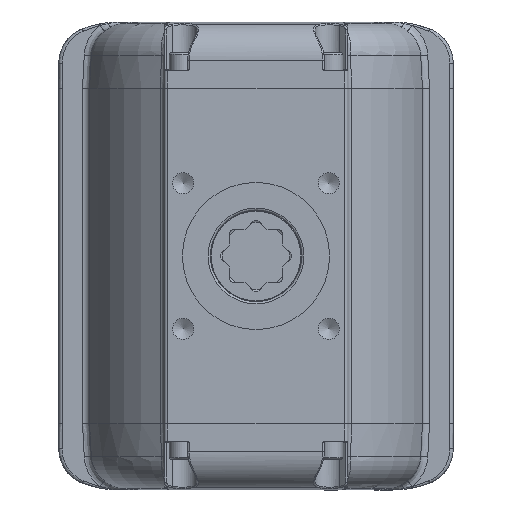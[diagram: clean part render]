
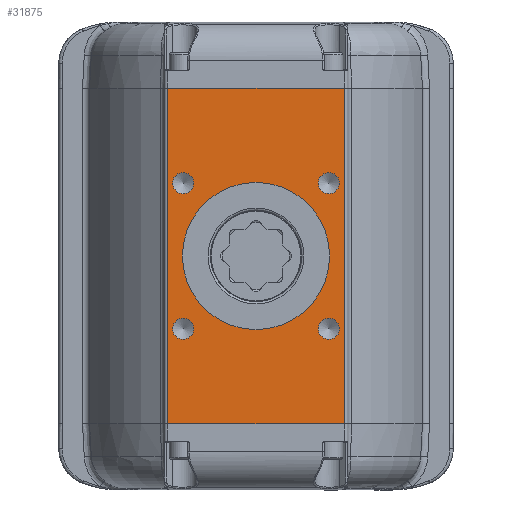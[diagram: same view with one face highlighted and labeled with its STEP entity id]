
A CAD part, front view. The second image highlights one B-rep face of the part: STEP entity #31875.
In plain terms, the highlighted planar face has unit normal (0, -1, 0).
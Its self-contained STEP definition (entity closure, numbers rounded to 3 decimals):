
#30025=CARTESIAN_POINT('',(60.,-136.,-114.));
#30026=VERTEX_POINT('',#30025);
#30034=CARTESIAN_POINT('',(-60.,-136.,-114.));
#30035=VERTEX_POINT('',#30034);
#30036=CARTESIAN_POINT('',(-60.,-136.,-114.));
#30037=DIRECTION('',(1.0,0.0,0.0));
#30038=VECTOR('',#30037,120.);
#30039=LINE('',#30036,#30038);
#30040=EDGE_CURVE('',#30035,#30026,#30039,.T.);
#31777=CARTESIAN_POINT('',(-60.,-136.,114.));
#31778=VERTEX_POINT('',#31777);
#31788=CARTESIAN_POINT('',(-60.,-136.,-114.));
#31789=DIRECTION('',(0.0,0.0,1.0));
#31790=VECTOR('',#31789,228.0);
#31791=LINE('',#31788,#31790);
#31792=EDGE_CURVE('',#30035,#31778,#31791,.T.);
#31797=CARTESIAN_POINT('',(62.5,-136.,0.));
#31798=DIRECTION('',(0.0,-1.0,0.0));
#31799=DIRECTION('',(0.0,0.0,-1.0));
#31800=AXIS2_PLACEMENT_3D('',#31797,#31798,#31799);
#31801=PLANE('',#31800);
#31802=CARTESIAN_POINT('',(60.,-136.,114.));
#31803=VERTEX_POINT('',#31802);
#31804=CARTESIAN_POINT('',(60.,-136.,114.));
#31805=DIRECTION('',(0.0,0.0,-1.0));
#31806=VECTOR('',#31805,228.0);
#31807=LINE('',#31804,#31806);
#31808=EDGE_CURVE('',#31803,#30026,#31807,.T.);
#31809=ORIENTED_EDGE('',*,*,#31808,.F.);
#31810=CARTESIAN_POINT('',(60.,-136.,114.));
#31811=DIRECTION('',(-1.0,0.0,0.0));
#31812=VECTOR('',#31811,120.);
#31813=LINE('',#31810,#31812);
#31814=EDGE_CURVE('',#31803,#31778,#31813,.T.);
#31815=ORIENTED_EDGE('',*,*,#31814,.T.);
#31816=ORIENTED_EDGE('',*,*,#31792,.F.);
#31817=ORIENTED_EDGE('',*,*,#30040,.T.);
#31818=EDGE_LOOP('',(#31809,#31815,#31816,#31817));
#31819=FACE_OUTER_BOUND('',#31818,.T.);
#31820=CARTESIAN_POINT('',(-42.309,-136.,49.497));
#31821=VERTEX_POINT('',#31820);
#31822=CARTESIAN_POINT('',(-49.497,-136.,49.497));
#31823=DIRECTION('',(0.0,1.0,0.0));
#31824=DIRECTION('',(1.0,0.0,0.0));
#31825=AXIS2_PLACEMENT_3D('',#31822,#31823,#31824);
#31826=CIRCLE('',#31825,7.188);
#31827=EDGE_CURVE('',#31821,#31821,#31826,.T.);
#31828=ORIENTED_EDGE('',*,*,#31827,.T.);
#31829=EDGE_LOOP('',(#31828));
#31830=FACE_BOUND('',#31829,.T.);
#31831=CARTESIAN_POINT('',(56.685,-136.,-49.497));
#31832=VERTEX_POINT('',#31831);
#31833=CARTESIAN_POINT('',(49.497,-136.,-49.497));
#31834=DIRECTION('',(0.0,1.0,0.0));
#31835=DIRECTION('',(1.0,0.0,0.0));
#31836=AXIS2_PLACEMENT_3D('',#31833,#31834,#31835);
#31837=CIRCLE('',#31836,7.188);
#31838=EDGE_CURVE('',#31832,#31832,#31837,.T.);
#31839=ORIENTED_EDGE('',*,*,#31838,.T.);
#31840=EDGE_LOOP('',(#31839));
#31841=FACE_BOUND('',#31840,.T.);
#31842=CARTESIAN_POINT('',(-42.309,-136.0,-49.497));
#31843=VERTEX_POINT('',#31842);
#31844=CARTESIAN_POINT('',(-49.497,-136.0,-49.497));
#31845=DIRECTION('',(0.0,1.0,0.0));
#31846=DIRECTION('',(1.0,0.0,0.0));
#31847=AXIS2_PLACEMENT_3D('',#31844,#31845,#31846);
#31848=CIRCLE('',#31847,7.188);
#31849=EDGE_CURVE('',#31843,#31843,#31848,.T.);
#31850=ORIENTED_EDGE('',*,*,#31849,.T.);
#31851=EDGE_LOOP('',(#31850));
#31852=FACE_BOUND('',#31851,.T.);
#31853=CARTESIAN_POINT('',(56.685,-136.0,49.497));
#31854=VERTEX_POINT('',#31853);
#31855=CARTESIAN_POINT('',(49.497,-136.,49.497));
#31856=DIRECTION('',(0.0,1.0,0.0));
#31857=DIRECTION('',(1.0,0.0,0.0));
#31858=AXIS2_PLACEMENT_3D('',#31855,#31856,#31857);
#31859=CIRCLE('',#31858,7.188);
#31860=EDGE_CURVE('',#31854,#31854,#31859,.T.);
#31861=ORIENTED_EDGE('',*,*,#31860,.T.);
#31862=EDGE_LOOP('',(#31861));
#31863=FACE_BOUND('',#31862,.T.);
#31864=CARTESIAN_POINT('',(0.,-136.,50.));
#31865=VERTEX_POINT('',#31864);
#31866=CARTESIAN_POINT('',(0.,-136.0,0.));
#31867=DIRECTION('',(0.0,1.0,0.0));
#31868=DIRECTION('',(0.0,0.0,1.0));
#31869=AXIS2_PLACEMENT_3D('',#31866,#31867,#31868);
#31870=CIRCLE('',#31869,50.);
#31871=EDGE_CURVE('',#31865,#31865,#31870,.T.);
#31872=ORIENTED_EDGE('',*,*,#31871,.T.);
#31873=EDGE_LOOP('',(#31872));
#31874=FACE_BOUND('',#31873,.T.);
#31875=ADVANCED_FACE('',(#31819,#31830,#31841,#31852,#31863,#31874),#31801,.T.);
